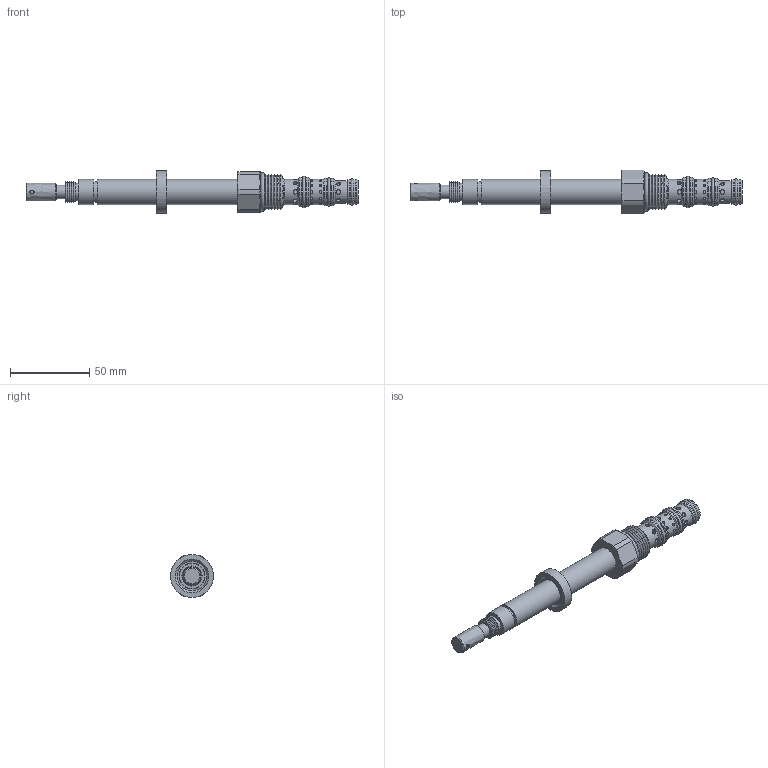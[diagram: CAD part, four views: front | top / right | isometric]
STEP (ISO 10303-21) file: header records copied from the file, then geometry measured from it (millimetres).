
FILE_DESCRIPTION((''),'2;1');
FILE_NAME('U:\sat files\DGS4P0P.stp','2009-09-09T08:58:47',('Dan'),(''),'Autodesk Inventor 2009','Autodesk Inventor 2009','');
FILE_SCHEMA(('AUTOMOTIVE_DESIGN { 1 0 10303 214 1 1 1 1 }'));
Length unit declared in the file: inch
Products named in the file (15): DGS4P0P; DGS4P0P1; DGS4P0P2; DGS4P0P3; DGS4P0P4; DGS4P0P5; DGS4P0P6; DGS4P0P7; DGS4P0P8; DGS4P0P9; DGS4P0P10; DGS4P0P11; DGS4P0P12; DGS4P0P13; DGS4P0P14
Assembly tree (14 placements, depth 2):
  DGS4P0P
    DGS4P0P1
    DGS4P0P2
    DGS4P0P3
    DGS4P0P4
    DGS4P0P5
    DGS4P0P6
    DGS4P0P7
    DGS4P0P8
    DGS4P0P9
    DGS4P0P10
    DGS4P0P11
    DGS4P0P12
    DGS4P0P13
    DGS4P0P14
Bounding box: 209.78 x 27.77 x 26.97 mm (x, y, z)
Volume: 45480.5 mm3; surface area: 18843 mm2
Topology: 14 solids, 14 shells, 288 faces, 560 edges, 346 vertices
Faces by surface type: cylinder 82, plane 81, bspline 63, cone 58, torus 4
Full cylindrical faces by diameter (mm): 1.6 x24, 2.794 x16, 6.756 x1, 8.738 x1, 11.11 x1, 11.176 x1, 11.913 x1, 12.827 x1, 12.992 x1, 13.043 x2, 14.288 x1, 14.592 x1, 14.643 x2, 15.723 x2, 15.735 x2, 15.875 x4, 16.167 x1, 16.218 x2, 16.256 x1, 17.323 x3, 17.335 x2, 18.898 x2, 18.91 x2, 19.624 x1, 26.975 x1
Entity records: 8563 total; most frequent: CARTESIAN_POINT 3442, DIRECTION 1014, ORIENTED_EDGE 650, EDGE_LOOP 544, AXIS2_PLACEMENT_3D 501, EDGE_CURVE 325, VERTEX_POINT 297, FACE_OUTER_BOUND 288
